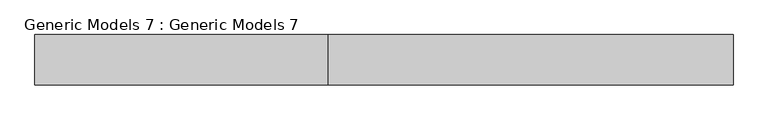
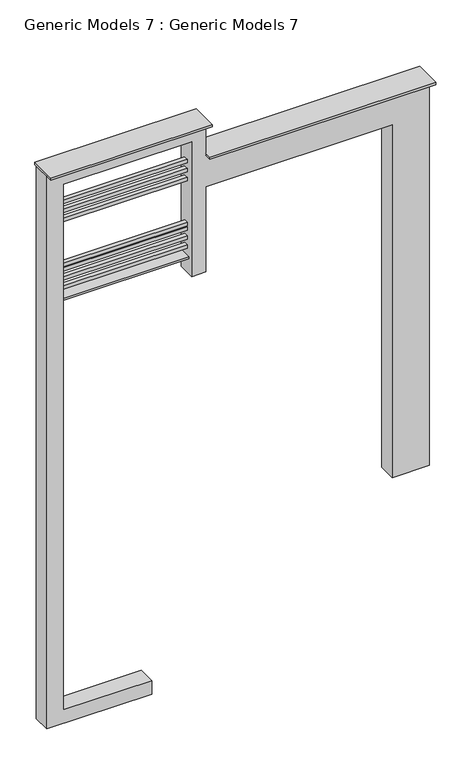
"""IFC4 building model written with IfcOpenShell, lengths in millimetres: proxy geometry, Generic Models 7 : Generic Models 7."""

from ifc_helpers import new_model, si_unit, frame, origin, place, context, project, spatial, polyline, outline, extrude, source, transform, mapped, element, save


def generic_models_7_generic_models_7_24e08bad(model_context):
    return source(origin(), model_context, "Body", "SweptSolid", [
        extrude(outline(polyline([(-8418.5171482, -4035.7777542), (-11118.5171482, -4035.7777542), (-11118.5171482, -3946.3905645), (-8418.5171482, -3946.3905645), (-8418.5171482, -4035.7777542)])), frame((0.0, 0.0, 16034.7689735), z_axis=(0.0, 0.0, 1.0), x_axis=(1.0, 0.0, 0.0)), (0.0, 0.0, 1.0), 80.0),
        extrude(outline(polyline([(-8418.5171482, -4035.7777542), (-11118.5171482, -4035.7777542), (-11118.5171482, -3946.3905645), (-8418.5171482, -3946.3905645), (-8418.5171482, -4035.7777542)])), frame((0.0, 0.0, 15934.7689735), z_axis=(0.0, 0.0, 1.0), x_axis=(1.0, 0.0, 0.0)), (0.0, 0.0, 1.0), 80.0),
        extrude(outline(polyline([(-8418.5171482, -4035.7777542), (-11118.5171482, -4035.7777542), (-11118.5171482, -3946.3905645), (-8418.5171482, -3946.3905645), (-8418.5171482, -4035.7777542)])), frame((0.0, 0.0, 15734.7689735), z_axis=(0.0, 0.0, 1.0), x_axis=(1.0, 0.0, 0.0)), (0.0, 0.0, 1.0), 80.0),
        extrude(outline(polyline([(-8418.5171482, -4035.7777542), (-11118.5171482, -4035.7777542), (-11118.5171482, -3946.3905645), (-8418.5171482, -3946.3905645), (-8418.5171482, -4035.7777542)])), frame((0.0, 0.0, 17034.7689735), z_axis=(0.0, 0.0, 1.0), x_axis=(1.0, 0.0, 0.0)), (0.0, 0.0, 1.0), 80.0),
        extrude(outline(polyline([(-8418.5171482, -4035.7777542), (-11118.5171482, -4035.7777542), (-11118.5171482, -3946.3905645), (-8418.5171482, -3946.3905645), (-8418.5171482, -4035.7777542)])), frame((0.0, 0.0, 17234.7689735), z_axis=(0.0, 0.0, 1.0), x_axis=(1.0, 0.0, 0.0)), (0.0, 0.0, 1.0), 80.0),
        extrude(outline(polyline([(-8418.5171482, -4097.6885624), (-11118.5171482, -4097.6885624), (-11118.5171482, -3799.4449025), (-8418.5171482, -3799.4449025), (-8418.5171482, -4097.6885624)])), frame((0.0, 0.0, 15336.4), z_axis=(0.0, 0.0, 1.0), x_axis=(1.0, 0.0, 0.0)), (0.0, 0.0, 1.0), 50.0),
        extrude(outline(polyline([(-8418.5171482, -4035.7777542), (-11118.5171482, -4035.7777542), (-11118.5171482, -3946.3905645), (-8418.5171482, -3946.3905645), (-8418.5171482, -4035.7777542)])), frame((0.0, 0.0, 15534.7689735), z_axis=(0.0, 0.0, 1.0), x_axis=(1.0, 0.0, 0.0)), (0.0, 0.0, 1.0), 80.0),
        extrude(outline(polyline([(-8418.5171482, -4035.7777542), (-11118.5171482, -4035.7777542), (-11118.5171482, -3946.3905645), (-8418.5171482, -3946.3905645), (-8418.5171482, -4035.7777542)])), frame((0.0, 0.0, 17434.7689735), z_axis=(0.0, 0.0, 1.0), x_axis=(1.0, 0.0, 0.0)), (0.0, 0.0, 1.0), 80.0),
        extrude(outline(polyline([(-8120.1539512, -3763.5680576), (-3368.5171482, -3763.5680576), (-3368.5171482, -4347.6885624), (-8120.1539512, -4347.6885624), (-8120.1539512, -3763.5680576)])), frame((0.0, 0.0, 17600.0), z_axis=(0.0, 0.0, 1.0), x_axis=(1.0, 0.0, 0.0)), (0.0, 0.0, 1.0), 50.0),
        extrude(outline(polyline([(-8068.5171482, -4347.6885624), (-11468.5171482, -4347.6885624), (-11468.5171482, -3763.5680576), (-8068.5171482, -3763.5680576), (-8068.5171482, -4347.6885624)])), frame((0.0, 0.0, 18300.0), z_axis=(0.0, 0.0, 1.0), x_axis=(1.0, 0.0, 0.0)), (0.0, 0.0, 1.0), 50.0),
        extrude(outline(polyline([(6000.0, -9260.1539512), (6300.0, -9260.1539512), (6300.0, -11118.5171482), (18000.0, -11118.5171482), (18000.0, -8418.5171482), (15000.0, -8418.5171482), (15000.0, -8118.5171482), (16900.0, -8118.5171482), (16900.0, -4200.0), (9050.0, -4200.0), (9050.0, -3418.5171482), (17600.0, -3418.5171482), (17600.0, -8118.5171482), (18300.0, -8118.5171482), (18300.0, -11468.5171482), (6000.0, -11468.5171482), (6000.0, -9260.1539512)])), frame((0.0, -4196.3905645, 0.0), z_axis=(0.0, 1.0, 0.0), x_axis=(0.0, 0.0, 1.0)), (0.0, 0.0, 1.0), 382.8225069),
    ])


if __name__ == "__main__":
    model = new_model("IFC4")
    model_context = context("Model", 3, world=origin())
    ifc_project = project(units=[si_unit("LENGTHUNIT", "METRE", prefix="MILLI")], contexts=[model_context])
    site = spatial("IfcSite", under=ifc_project)
    building = spatial("IfcBuilding", under=site)
    placement = place(None, origin())
    generic_models_7_generic_models_7_shape = generic_models_7_generic_models_7_24e08bad(model_context)
    element("IfcBuildingElementProxy", 1, Name="Generic Models 7 : Generic Models 7", ObjectType="Generic Models 7 : Generic Models 7", at=placement, inside=building, context=model_context, shape_type="MappedRepresentation", body=[
        mapped(generic_models_7_generic_models_7_shape, transform((0.0, 0.0, 0.0), x_axis=(1.0, 0.0, 0.0), y_axis=(0.0, 1.0, 0.0), z_axis=(0.0, 0.0, 1.0))),
    ])
    save(model, "model.ifc")
